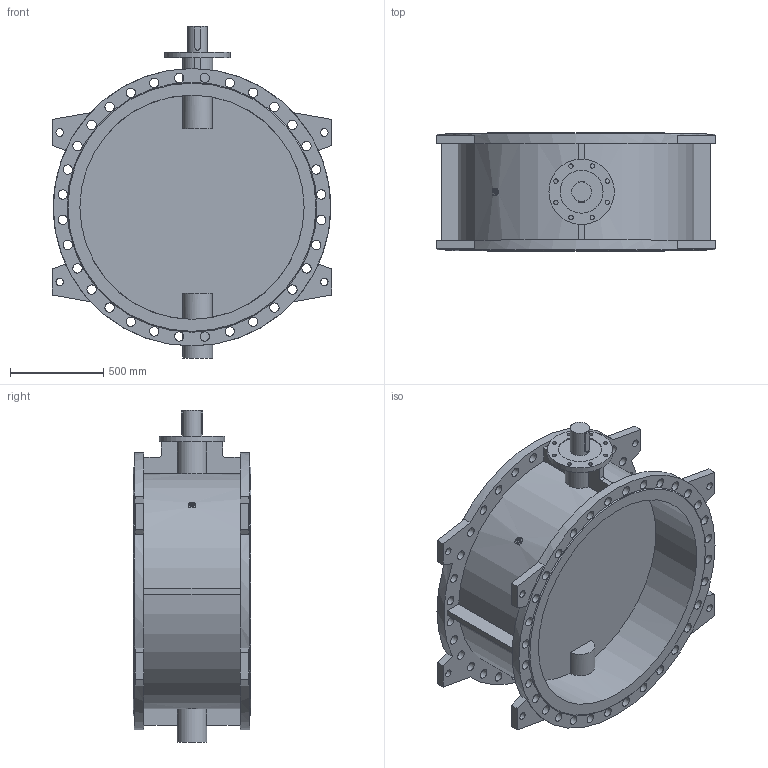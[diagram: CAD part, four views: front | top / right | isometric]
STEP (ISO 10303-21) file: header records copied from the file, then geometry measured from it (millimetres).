
FILE_DESCRIPTION(('STEP AP203'), '1');
FILE_NAME('Çàòâîð 023F.Z DN1200 PN16_èñï', '', ('UNSPECIFIED'), ('UNSPECIFIED'), 'ASCON STEP Converter 1.6', 'ASCON Math Kernel', '');
FILE_SCHEMA(('CONFIG_CONTROL_DESIGN'));
Length unit declared in the file: millimetre
Bounding box: 1496 x 630 x 1777 mm (x, y, z)
Volume: 240726791.3 mm3; surface area: 10490074.1 mm2
Topology: 1 solids, 1 shells, 198 faces, 553 edges, 366 vertices
Faces by surface type: cylinder 107, plane 89, cone 2
Full cylindrical faces by diameter (mm): 23 x8, 40 x8, 50 x64, 105 x1, 160 x1, 230 x1, 350 x1, 1200 x2, 1485 x2
Entity records: 9130 total; most frequent: CARTESIAN_POINT 2258, DIRECTION 1078, ORIENTED_EDGE 924, EDGE_CURVE 462, EDGE_LOOP 458, AXIS2_PLACEMENT_3D 436, VERTEX_POINT 366, FACE_BOUND 286
